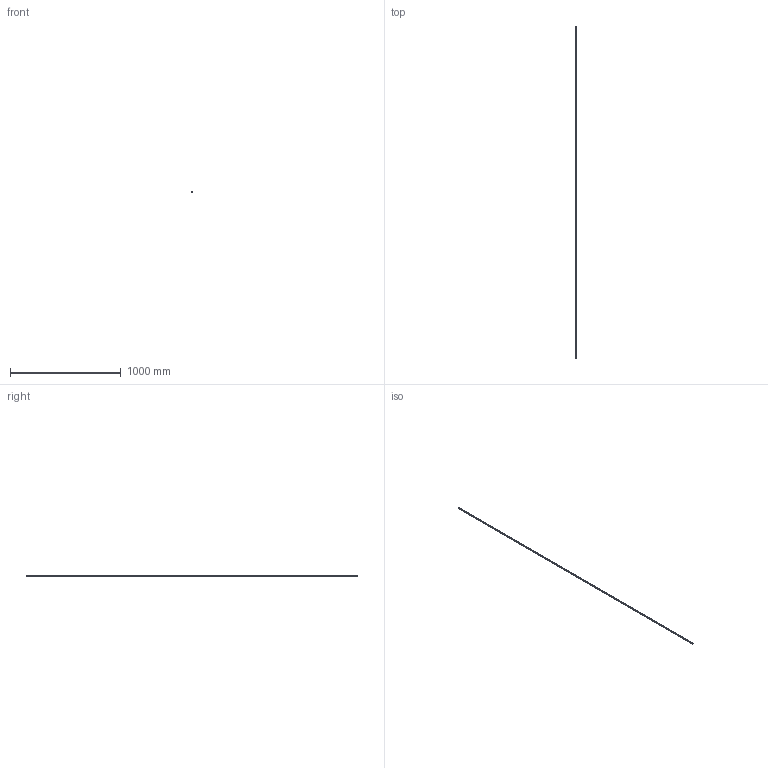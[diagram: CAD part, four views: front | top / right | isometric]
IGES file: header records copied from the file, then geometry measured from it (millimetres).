
Start section: Data from Parasolid IGES Translator 20.0.26, Copyright(c) 2006 Siemens P LM Software. All Rights Reserved.
Global section: file name: 9298818.igs; native system: By Siemens PLM Incorporated; preprocessor: XPlus GENERIC/IGES 20.0.26; author: Noname; organization: Noname; date: 20210823.113845; units: millimetre
Bounding box: 14 x 3000 x 3.7 mm (x, y, z)
Surface area: 121243 mm2 (no closed solid volume)
Topology: 0 solids, 0 shells, 14 faces, 72 edges, 72 vertices
Faces by surface type: extrusion 14
